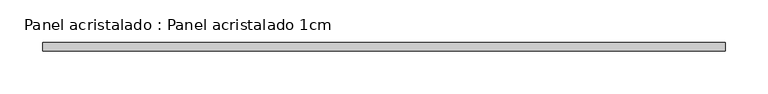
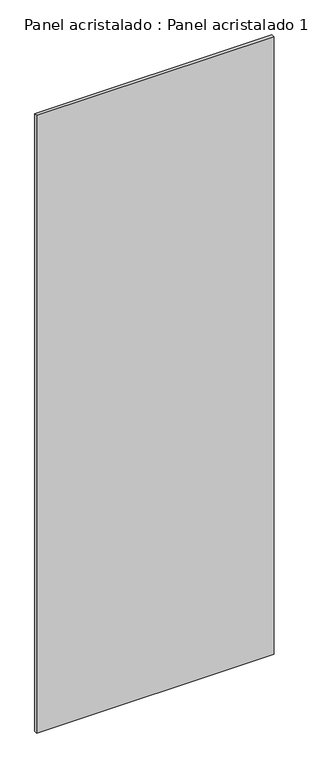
"""IFC4 building model written with IfcOpenShell, lengths in millimetres: plate geometry, Panel acristalado : Panel acristalado 1cm."""

from ifc_helpers import new_model, si_unit, origin, origin_with_axes, place, context, project, spatial, polyline, outline, extrude, source, transform, mapped, element, save


def panel_acristalado_panel_acristalado_1cm_0ca00538(model_context):
    return source(origin(), model_context, "Body", "SweptSolid", [
        extrude(outline(polyline([(400.0, 20.0), (-400.0, 20.0), (-400.0, 30.0), (400.0, 30.0), (400.0, 20.0)])), origin_with_axes(), (0.0, 0.0, 1.0), 2200.0),
    ])


if __name__ == "__main__":
    model = new_model("IFC4")
    model_context = context("Model", 3, world=origin())
    ifc_project = project(units=[si_unit("LENGTHUNIT", "METRE", prefix="MILLI")], contexts=[model_context])
    site = spatial("IfcSite", under=ifc_project)
    building = spatial("IfcBuilding", under=site)
    placement = place(None, origin())
    panel_acristalado_panel_acristalado_1cm_shape = panel_acristalado_panel_acristalado_1cm_0ca00538(model_context)
    element("IfcPlate", 1, ObjectType="Panel acristalado : Panel acristalado 1cm", at=placement, inside=building, context=model_context, shape_type="MappedRepresentation", body=[
        mapped(panel_acristalado_panel_acristalado_1cm_shape, transform((0.0, 0.0, 0.0), x_axis=(1.0, 0.0, 0.0), y_axis=(0.0, 1.0, 0.0), z_axis=(0.0, 0.0, 1.0))),
    ])
    save(model, "model.ifc")
